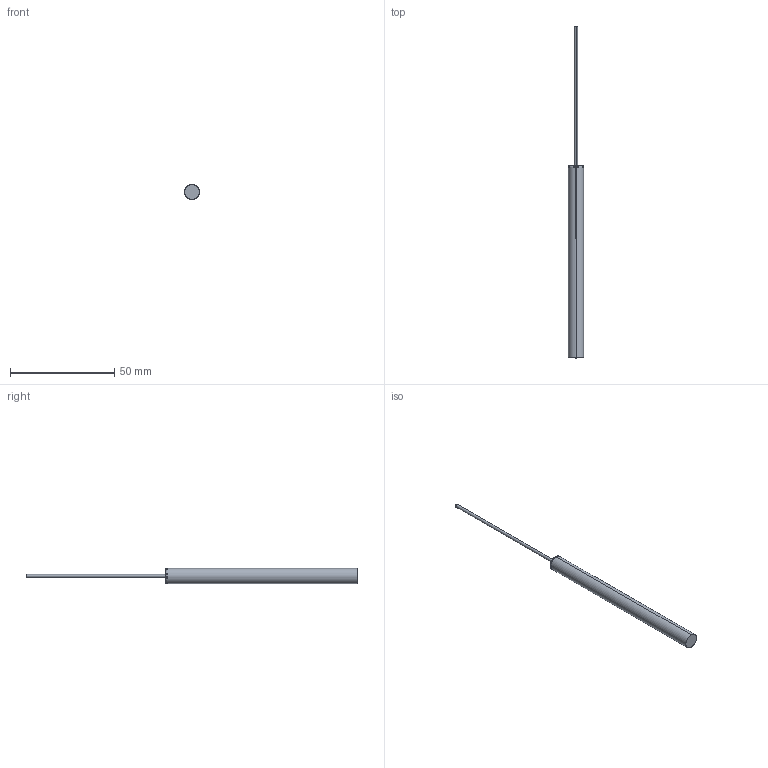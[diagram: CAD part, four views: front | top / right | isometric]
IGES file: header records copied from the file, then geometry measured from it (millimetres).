
Start section: SolidWorks IGES file using analytic representation for surfaces
Bounding box: 7.2 x 159 x 7.2 mm (x, y, z)
Surface area: 2573.3 mm2 (no closed solid volume)
Topology: 0 solids, 0 shells, 13 faces, 136 edges, 136 vertices
Faces by surface type: bspline 7, revolution 6
